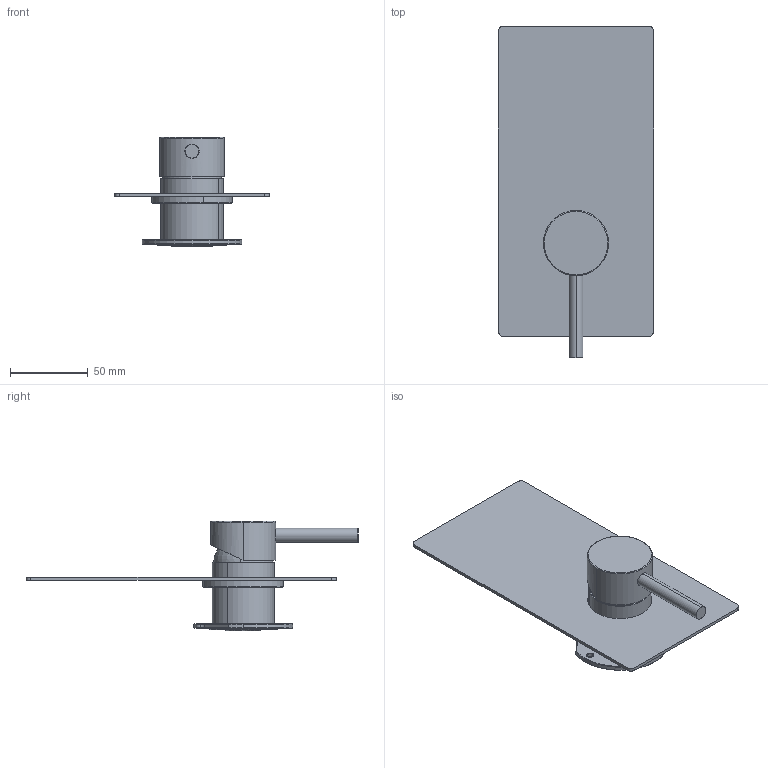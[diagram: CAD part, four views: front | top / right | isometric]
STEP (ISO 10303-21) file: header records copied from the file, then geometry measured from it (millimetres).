
FILE_DESCRIPTION (( 'STEP AP203' ), '1' );
FILE_NAME ('EMN1.STEP', '2024-01-29T16:20:50', ( '' ), ( '' ), 'SwSTEP 2.0', 'SolidWorks 2023', '' );
FILE_SCHEMA (( 'CONFIG_CONTROL_DESIGN' ));
Length unit declared in the file: millimetre
Products named in the file (12): C12.00.0057; C10.00.0015; C25.2693.00; C24.1837.00.0; C24.1830.00.0; C31.00.0006.01; C25.2056.00.0; EMN1; C47.00.0015; AS747_00; C18.12.0005.01; AS1076
Assembly tree (11 placements, depth 3):
  EMN1
    AS1076
      C25.2693.00
      C25.2056.00.0
    AS747_00
      C47.00.0015
      C10.00.0015
      C24.1830.00.0
      C12.00.0057
      C24.1837.00.0
      C31.00.0006.01
    C18.12.0005.01
Bounding box: 100 x 214 x 70.5 mm (x, y, z)
Volume: 114652.7 mm3; surface area: 86481.3 mm2
Topology: 12 solids, 12 shells, 621 faces, 1439 edges, 835 vertices
Faces by surface type: cylinder 252, plane 148, cone 84, torus 61, bspline 44, sphere 32
Entity records: 20135 total; most frequent: CARTESIAN_POINT 4786, DIRECTION 3207, ORIENTED_EDGE 2798, EDGE_CURVE 1399, AXIS2_PLACEMENT_3D 1322, VERTEX_POINT 835, CIRCLE 729, EDGE_LOOP 692
